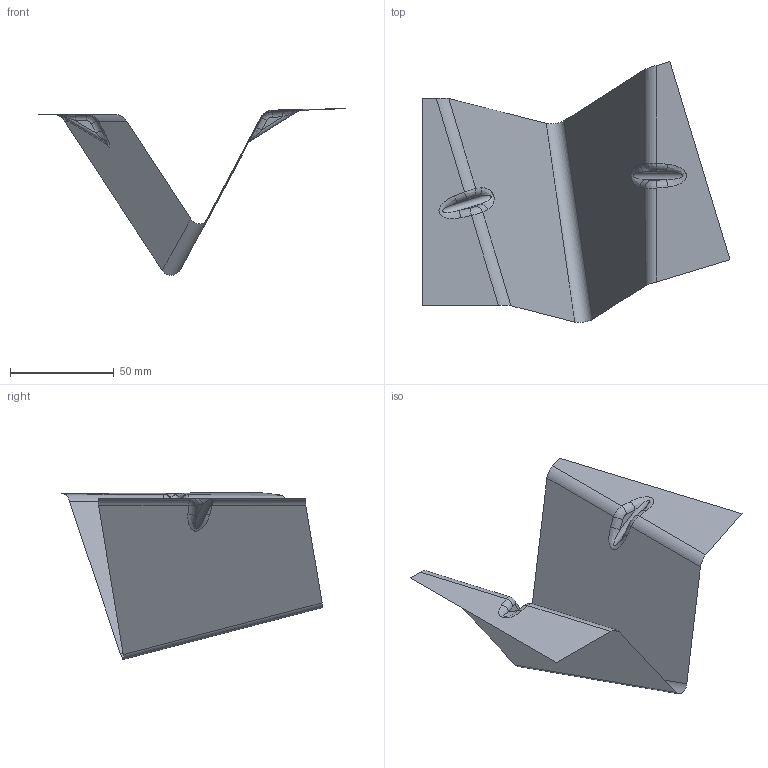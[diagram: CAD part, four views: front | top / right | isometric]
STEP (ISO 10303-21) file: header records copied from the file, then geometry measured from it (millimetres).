
FILE_DESCRIPTION(('CATIA V5 STEP Exchange'),'2;1');
FILE_NAME('C:\_Andres\UNIVERSIDAD\IQS\ASIGNATURAS\DAO\EXF\EXF-16172c\2inicio\Campmany_Monforte_Ej03_v6.stp','2017-03-05T19:32:05+00:00',('none'),('none'),'CATIA Version 5-6 Release 2014 SP1 HF18','CATIA V5 STEP AP203','none');
FILE_SCHEMA(('CONFIG_CONTROL_DESIGN'));
Length unit declared in the file: millimetre
Products named in the file (1): Campmany_Monforte_Ej03_v6
Bounding box: 148.54 x 125.81 x 80.46 mm (x, y, z)
Surface area: 21455.3 mm2 (no closed solid volume)
Topology: 0 solids, 1 shells, 31 faces, 78 edges, 48 vertices
Faces by surface type: cylinder 15, plane 8, bspline 8
Entity records: 2443 total; most frequent: CARTESIAN_POINT 1770, ORIENTED_EDGE 140, DIRECTION 90, EDGE_CURVE 78, VERTEX_POINT 48, VECTOR 40, LINE 40, ADVANCED_FACE 31
